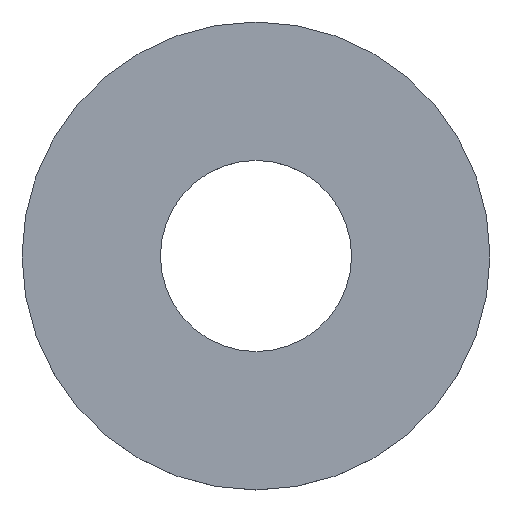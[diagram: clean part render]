
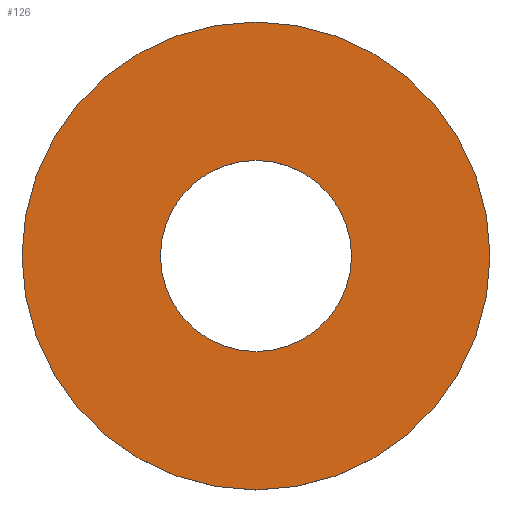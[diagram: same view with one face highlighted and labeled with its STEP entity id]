
A CAD part, top view. The second image highlights one B-rep face of the part: STEP entity #126.
In plain terms, the highlighted planar face has unit normal (0, 0, 1).
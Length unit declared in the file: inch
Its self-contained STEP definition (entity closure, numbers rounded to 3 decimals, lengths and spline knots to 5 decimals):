
#12 = AXIS2_PLACEMENT_3D ( 'NONE', #139, #208, #181 ) ;
#14 = FACE_OUTER_BOUND ( 'NONE', #131, .T. ) ;
#15 = ORIENTED_EDGE ( 'NONE', *, *, #25, .T. ) ;
#25 = EDGE_CURVE ( 'NONE', #108, #71, #32, .T. ) ;
#31 = DIRECTION ( 'NONE',  ( 1., 0., 0. ) ) ;
#32 = CIRCLE ( 'NONE', #162, 0.41 ) ;
#49 = PLANE ( 'NONE',  #186 ) ;
#50 = EDGE_CURVE ( 'NONE', #220, #201, #133, .T. ) ;
#57 = DIRECTION ( 'NONE',  ( 0., 0., 1. ) ) ;
#58 = AXIS2_PLACEMENT_3D ( 'NONE', #116, #231, #119 ) ;
#71 = VERTEX_POINT ( 'NONE', #136 ) ;
#86 = FACE_BOUND ( 'NONE', #206, .T. ) ;
#97 = ORIENTED_EDGE ( 'NONE', *, *, #242, .F. ) ;
#100 = CIRCLE ( 'NONE', #12, 0.1675 ) ;
#103 = CIRCLE ( 'NONE', #107, 0.41 ) ;
#105 = CARTESIAN_POINT ( 'NONE',  ( -1.07, 0., 0.045 ) ) ;
#106 = EDGE_CURVE ( 'NONE', #71, #108, #103, .T. ) ;
#107 = AXIS2_PLACEMENT_3D ( 'NONE', #167, #172, #31 ) ;
#108 = VERTEX_POINT ( 'NONE', #144 ) ;
#110 = DIRECTION ( 'NONE',  ( 1., 0., 0. ) ) ;
#116 = CARTESIAN_POINT ( 'NONE',  ( -0.9025, 0., 0.045 ) ) ;
#119 = DIRECTION ( 'NONE',  ( 1., 0., 0. ) ) ;
#124 = CARTESIAN_POINT ( 'NONE',  ( -0.9025, 0., 0.045 ) ) ;
#126 = ADVANCED_FACE ( 'NONE', ( #14, #86 ), #49, .T. ) ;
#131 = EDGE_LOOP ( 'NONE', ( #224, #15 ) ) ;
#133 = CIRCLE ( 'NONE', #58, 0.1675 ) ;
#136 = CARTESIAN_POINT ( 'NONE',  ( -1.3125, 0., 0.045 ) ) ;
#139 = CARTESIAN_POINT ( 'NONE',  ( -0.9025, 0., 0.045 ) ) ;
#144 = CARTESIAN_POINT ( 'NONE',  ( -0.4925, 0., 0.045 ) ) ;
#157 = DIRECTION ( 'NONE',  ( 1., 0., 0. ) ) ;
#162 = AXIS2_PLACEMENT_3D ( 'NONE', #197, #230, #157 ) ;
#167 = CARTESIAN_POINT ( 'NONE',  ( -0.9025, 0., 0.045 ) ) ;
#172 = DIRECTION ( 'NONE',  ( 0., 0., 1. ) ) ;
#181 = DIRECTION ( 'NONE',  ( 1., 0., 0. ) ) ;
#184 = CARTESIAN_POINT ( 'NONE',  ( -0.735, 0., 0.045 ) ) ;
#185 = ORIENTED_EDGE ( 'NONE', *, *, #50, .F. ) ;
#186 = AXIS2_PLACEMENT_3D ( 'NONE', #124, #57, #110 ) ;
#197 = CARTESIAN_POINT ( 'NONE',  ( -0.9025, 0., 0.045 ) ) ;
#201 = VERTEX_POINT ( 'NONE', #105 ) ;
#206 = EDGE_LOOP ( 'NONE', ( #97, #185 ) ) ;
#208 = DIRECTION ( 'NONE',  ( 0., 0., 1. ) ) ;
#220 = VERTEX_POINT ( 'NONE', #184 ) ;
#224 = ORIENTED_EDGE ( 'NONE', *, *, #106, .T. ) ;
#230 = DIRECTION ( 'NONE',  ( 0., 0., 1. ) ) ;
#231 = DIRECTION ( 'NONE',  ( 0., 0., 1. ) ) ;
#242 = EDGE_CURVE ( 'NONE', #201, #220, #100, .T. ) ;
